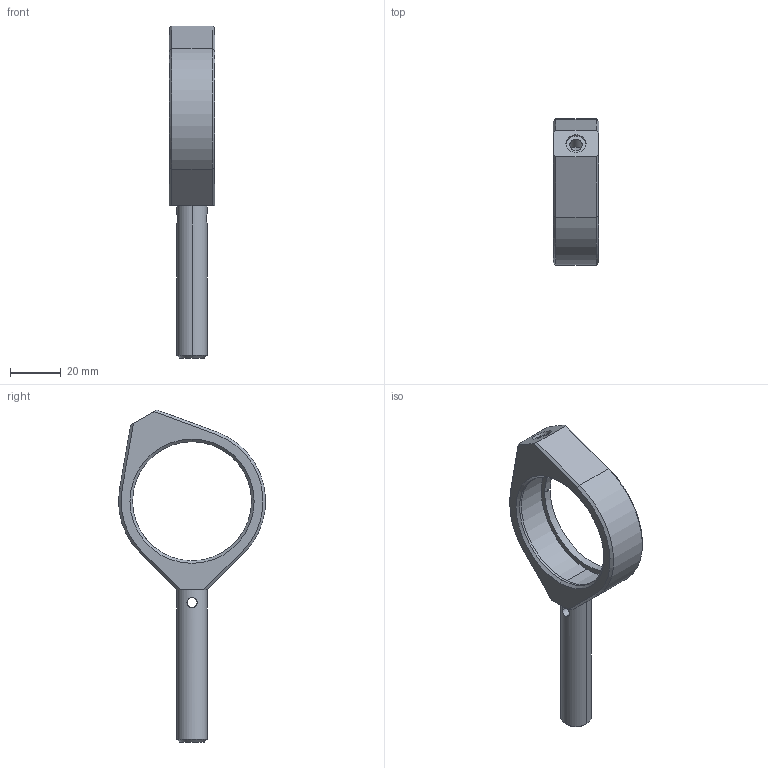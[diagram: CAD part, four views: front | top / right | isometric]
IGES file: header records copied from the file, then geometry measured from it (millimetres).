
Global section: file name: No Iges File Name specified; native system: AutoDesk Inventor R12.0; preprocessor: AutoDesk Inventor Iges Exporter R12.0; author: No Author specified; organization: No Organization specified; date: 20100803.120206; units: millimetre
Bounding box: 18 x 57.96 x 131 mm (x, y, z)
Volume: 25363.4 mm3; surface area: 11955.2 mm2
Topology: 1 solids, 3 shells, 70 faces, 165 edges, 101 vertices
Faces by surface type: plane 32, bspline 14, revolution 12, cone 6, cylinder 6
